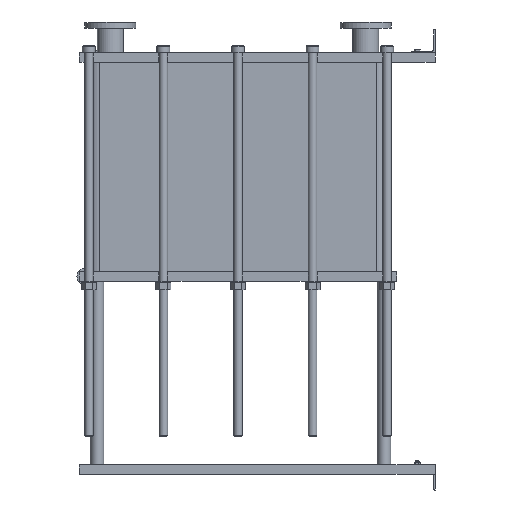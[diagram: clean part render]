
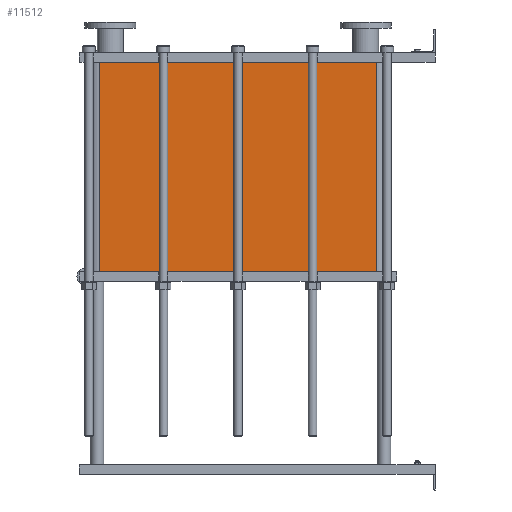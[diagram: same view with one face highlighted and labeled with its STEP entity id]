
A CAD part, left-side view. The second image highlights one B-rep face of the part: STEP entity #11512.
In plain terms, the highlighted planar face has unit normal (-1, 0, 0).
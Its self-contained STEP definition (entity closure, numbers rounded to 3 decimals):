
#1129=LINE('',#23232,#2102);
#1130=LINE('',#23236,#2103);
#1131=LINE('',#23238,#2104);
#1132=LINE('',#23239,#2105);
#2102=VECTOR('',#15887,10.);
#2103=VECTOR('',#15892,10.);
#2104=VECTOR('',#15893,10.);
#2105=VECTOR('',#15894,10.);
#3267=FACE_OUTER_BOUND('',#4093,.T.);
#4093=EDGE_LOOP('',(#10103,#10104,#10105,#10106));
#5642=VERTEX_POINT('',#23229);
#5643=VERTEX_POINT('',#23231);
#5644=VERTEX_POINT('',#23235);
#5645=VERTEX_POINT('',#23237);
#7159=EDGE_CURVE('',#5643,#5642,#1129,.T.);
#7161=EDGE_CURVE('',#5642,#5644,#1130,.T.);
#7162=EDGE_CURVE('',#5645,#5644,#1131,.T.);
#7163=EDGE_CURVE('',#5645,#5643,#1132,.T.);
#10103=ORIENTED_EDGE('',*,*,#7161,.T.);
#10104=ORIENTED_EDGE('',*,*,#7162,.F.);
#10105=ORIENTED_EDGE('',*,*,#7163,.T.);
#10106=ORIENTED_EDGE('',*,*,#7159,.T.);
#10857=PLANE('',#12751);
#11512=ADVANCED_FACE('',(#3267),#10857,.T.);
#12751=AXIS2_PLACEMENT_3D('',#23234,#15890,#15891);
#15887=DIRECTION('',(0.,0.,-1.));
#15890=DIRECTION('center_axis',(-1.,0.,0.));
#15891=DIRECTION('ref_axis',(0.,1.,0.));
#15892=DIRECTION('',(0.,-1.,0.));
#15893=DIRECTION('',(0.,0.,-1.));
#15894=DIRECTION('',(0.,1.,0.));
#23229=CARTESIAN_POINT('',(-200.,1414.,-883.2));
#23231=CARTESIAN_POINT('',(-200.,1414.,0.));
#23232=CARTESIAN_POINT('',(-200.,1414.,0.));
#23234=CARTESIAN_POINT('Origin',(-200.,248.,0.));
#23235=CARTESIAN_POINT('',(-200.,248.,-883.2));
#23236=CARTESIAN_POINT('',(-200.,539.5,-883.2));
#23237=CARTESIAN_POINT('',(-200.,248.,0.));
#23238=CARTESIAN_POINT('',(-200.,248.,0.));
#23239=CARTESIAN_POINT('',(-200.,248.,0.));
